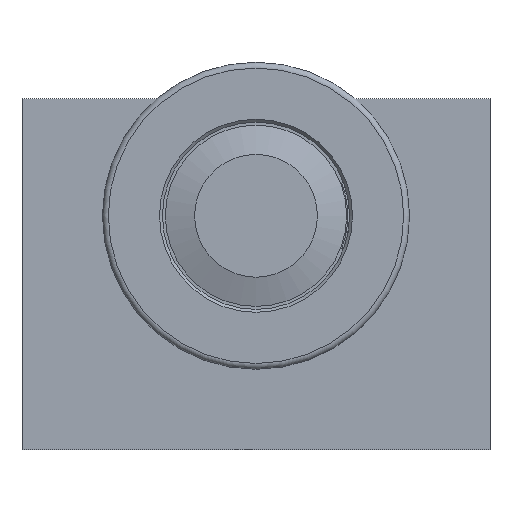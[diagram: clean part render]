
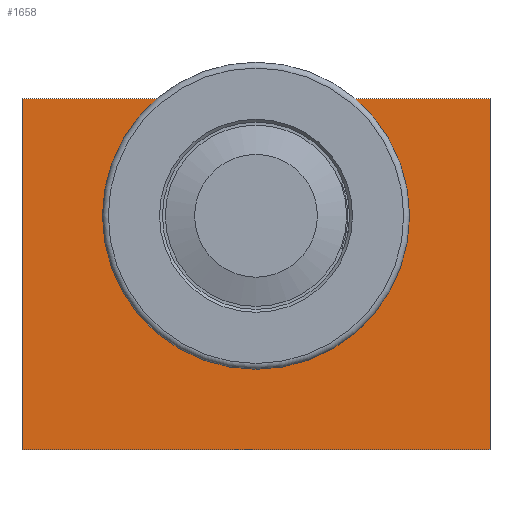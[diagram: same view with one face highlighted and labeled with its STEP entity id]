
A CAD part, front view. The second image highlights one B-rep face of the part: STEP entity #1658.
In plain terms, the highlighted planar face has unit normal (0, -1, 0).
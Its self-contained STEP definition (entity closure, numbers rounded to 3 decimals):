
#37=FACE_BOUND('',#246,.T.);
#75=PLANE('',#1860);
#146=FACE_OUTER_BOUND('',#245,.T.);
#245=EDGE_LOOP('',(#1385,#1386,#1387,#1388));
#246=EDGE_LOOP('',(#1389,#1390));
#341=LINE('',#2761,#455);
#346=LINE('',#2775,#460);
#358=LINE('',#2820,#472);
#361=LINE('',#2824,#475);
#455=VECTOR('',#2227,10.);
#460=VECTOR('',#2238,10.);
#472=VECTOR('',#2280,10.);
#475=VECTOR('',#2285,10.);
#613=CIRCLE('',#1861,17.5);
#614=CIRCLE('',#1862,17.5);
#748=VERTEX_POINT('',#2758);
#749=VERTEX_POINT('',#2760);
#755=VERTEX_POINT('',#2774);
#773=VERTEX_POINT('',#2819);
#782=VERTEX_POINT('',#2857);
#783=VERTEX_POINT('',#2858);
#954=EDGE_CURVE('',#749,#748,#341,.T.);
#961=EDGE_CURVE('',#755,#749,#346,.T.);
#984=EDGE_CURVE('',#755,#773,#358,.T.);
#987=EDGE_CURVE('',#773,#748,#361,.T.);
#1005=EDGE_CURVE('',#782,#783,#613,.T.);
#1006=EDGE_CURVE('',#783,#782,#614,.T.);
#1385=ORIENTED_EDGE('',*,*,#954,.T.);
#1386=ORIENTED_EDGE('',*,*,#987,.F.);
#1387=ORIENTED_EDGE('',*,*,#984,.F.);
#1388=ORIENTED_EDGE('',*,*,#961,.T.);
#1389=ORIENTED_EDGE('',*,*,#1005,.T.);
#1390=ORIENTED_EDGE('',*,*,#1006,.T.);
#1658=ADVANCED_FACE('',(#146,#37),#75,.T.);
#1860=AXIS2_PLACEMENT_3D('',#2856,#2319,#2320);
#1861=AXIS2_PLACEMENT_3D('',#2859,#2321,#2322);
#1862=AXIS2_PLACEMENT_3D('',#2860,#2323,#2324);
#2227=DIRECTION('',(0.,0.,1.));
#2238=DIRECTION('',(1.,0.,0.));
#2280=DIRECTION('',(0.,0.,1.));
#2285=DIRECTION('',(1.,0.,0.));
#2319=DIRECTION('center_axis',(0.,-1.,0.));
#2320=DIRECTION('ref_axis',(0.,0.,-1.));
#2321=DIRECTION('center_axis',(0.,1.,0.));
#2322=DIRECTION('ref_axis',(-1.,0.,0.));
#2323=DIRECTION('center_axis',(0.,1.,0.));
#2324=DIRECTION('ref_axis',(-1.,0.,0.));
#2758=CARTESIAN_POINT('',(80.,0.,60.));
#2760=CARTESIAN_POINT('',(80.,0.,0.));
#2761=CARTESIAN_POINT('',(80.,0.,0.));
#2774=CARTESIAN_POINT('',(0.,0.,0.));
#2775=CARTESIAN_POINT('',(0.,0.,0.));
#2819=CARTESIAN_POINT('',(0.,0.,60.));
#2820=CARTESIAN_POINT('',(0.,0.,0.));
#2824=CARTESIAN_POINT('',(0.,0.,60.));
#2856=CARTESIAN_POINT('Origin',(0.,0.,0.));
#2857=CARTESIAN_POINT('',(22.5,0.,40.));
#2858=CARTESIAN_POINT('',(57.5,0.,40.));
#2859=CARTESIAN_POINT('Origin',(40.,0.,40.));
#2860=CARTESIAN_POINT('Origin',(40.,0.,40.));
